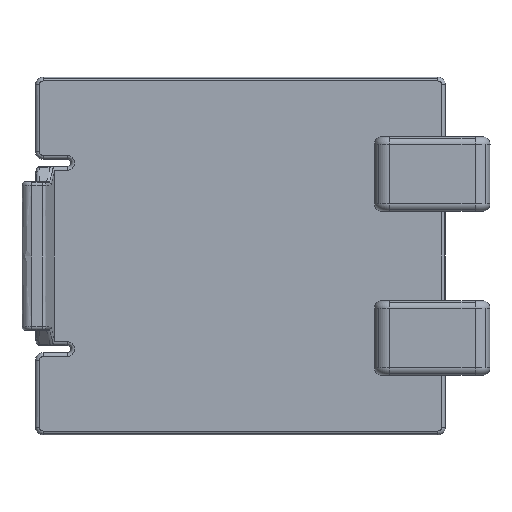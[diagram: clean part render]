
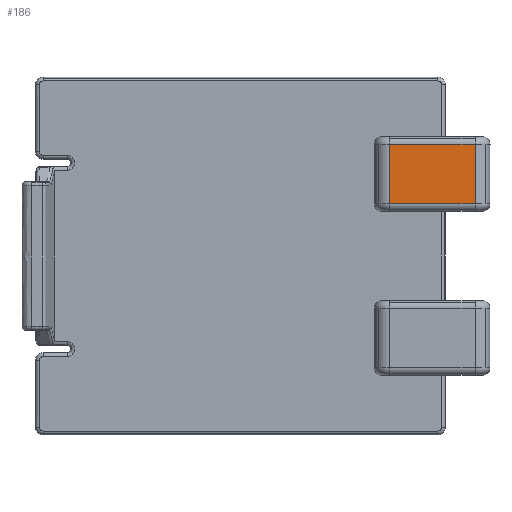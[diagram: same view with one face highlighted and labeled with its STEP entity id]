
A CAD part, front view. The second image highlights one B-rep face of the part: STEP entity #186.
In plain terms, the highlighted planar face has unit normal (0, -1, 0).
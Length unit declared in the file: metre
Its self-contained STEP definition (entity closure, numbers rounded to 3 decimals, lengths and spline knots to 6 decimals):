
#186=ADVANCED_FACE('0:215',(#547),#548,.T.);
#547=FACE_OUTER_BOUND('',#1494,.T.);
#548=PLANE('',#1495);
#1494=EDGE_LOOP('',(#3155,#3156,#3157,#3158));
#1495=AXIS2_PLACEMENT_3D('',#3159,#3160,#3161);
#3155=ORIENTED_EDGE('',*,*,#4352,.F.);
#3156=ORIENTED_EDGE('',*,*,#4082,.F.);
#3157=ORIENTED_EDGE('',*,*,#4070,.F.);
#3158=ORIENTED_EDGE('',*,*,#4066,.F.);
#3159=CARTESIAN_POINT('',(0.054635,0.046791,-0.020728));
#3160=DIRECTION('',(0.,-1.,0.));
#3161=DIRECTION('',(0.,0.,1.0));
#4066=EDGE_CURVE('0:1085',#4778,#4780,#4781,.T.);
#4070=EDGE_CURVE('0:1082',#4780,#4787,#4788,.T.);
#4082=EDGE_CURVE('0:1079',#4787,#4809,#4810,.T.);
#4352=EDGE_CURVE('0:1076',#4809,#4778,#5246,.T.);
#4778=VERTEX_POINT('',#5805);
#4780=VERTEX_POINT('',#5807);
#4781=LINE('',#5808,#5809);
#4787=VERTEX_POINT('',#5816);
#4788=LINE('',#5817,#5818);
#4809=VERTEX_POINT('',#5844);
#4810=LINE('',#5845,#5846);
#5246=LINE('',#6522,#6523);
#5805=CARTESIAN_POINT('',(0.049135,0.046789,-0.017165));
#5807=CARTESIAN_POINT('',(0.049135,0.046789,-0.013165));
#5808=CARTESIAN_POINT('',(0.049135,0.046789,-0.018415));
#5809=VECTOR('',#7091,1.);
#5816=CARTESIAN_POINT('',(0.054885,0.046791,-0.013165));
#5817=CARTESIAN_POINT('',(0.052635,0.04679,-0.013165));
#5818=VECTOR('',#7099,1.);
#5844=CARTESIAN_POINT('',(0.054885,0.046791,-0.017165));
#5845=CARTESIAN_POINT('',(0.054885,0.046791,-0.018415));
#5846=VECTOR('',#7123,1.);
#6522=CARTESIAN_POINT('',(0.052635,0.04679,-0.017165));
#6523=VECTOR('',#7656,1.);
#7091=DIRECTION('',(0.,0.,1.0));
#7099=DIRECTION('',(1.,0.,0.));
#7123=DIRECTION('',(0.,0.,-1.0));
#7656=DIRECTION('',(-1.,0.,0.));
